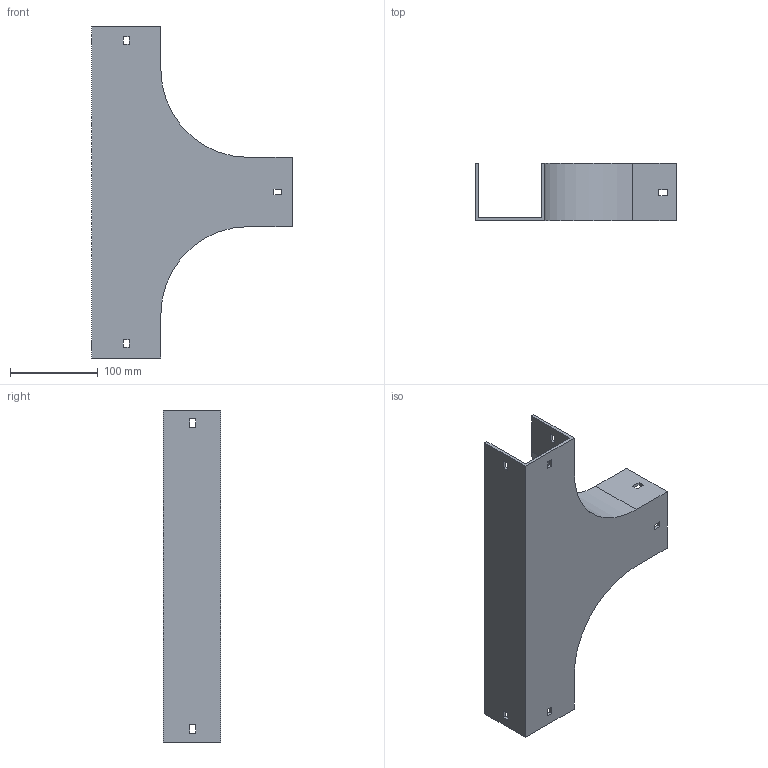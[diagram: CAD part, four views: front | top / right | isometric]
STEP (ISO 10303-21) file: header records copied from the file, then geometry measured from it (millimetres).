
FILE_DESCRIPTION (( 'STEP AP214' ), '1' );
FILE_NAME ('15B1H075.step', '2025-02-21T09:54:36', ( '' ), ( '' ), 'SwSTEP 2.0', 'SolidWorks 2023', '' );
FILE_SCHEMA (( 'AUTOMOTIVE_DESIGN' ));
Length unit declared in the file: millimetre
Products named in the file (1): 15B1H075
Bounding box: 229 x 65.5 x 379 mm (x, y, z)
Volume: 354215 mm3; surface area: 208705.6 mm2
Topology: 1 solids, 1 shells, 58 faces, 168 edges, 112 vertices
Faces by surface type: plane 54, cylinder 4
Entity records: 1939 total; most frequent: CARTESIAN_POINT 339, ORIENTED_EDGE 336, DIRECTION 294, EDGE_CURVE 168, VECTOR 160, LINE 160, VERTEX_POINT 112, EDGE_LOOP 76
